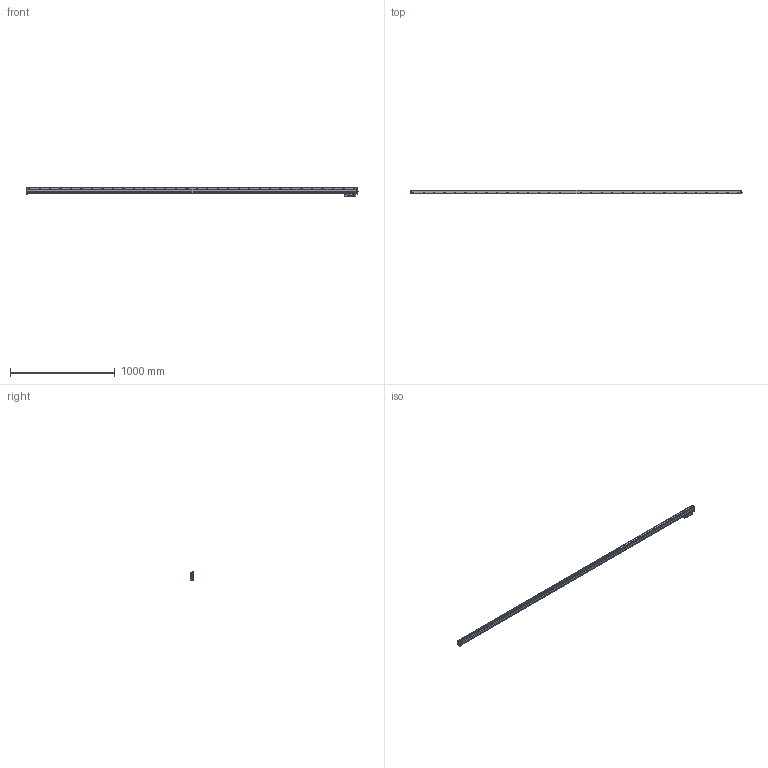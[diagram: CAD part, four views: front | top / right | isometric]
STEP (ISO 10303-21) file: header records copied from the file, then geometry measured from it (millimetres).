
FILE_DESCRIPTION(('Creo Elements/Direct Modeling STEP Export'),'2;1');
FILE_NAME('Regla G-3040-vs4.stp','2015-08-27T13:09:26',(''),(''),'Creo Elements/Direct Modeling STEP processor for AP214 (Solid Model)','Creo Elements/Direct Modeling 18.1G 27-Feb-2015 (C) Parametric Technology GmbH','');
FILE_SCHEMA(('AUTOMOTIVE_DESIGN { 1 0 10303 214 1 1 1 1 }'));
Length unit declared in the file: millimetre
Products named in the file (3): Cabeza; Regla_G-3040-VS4; Regla_serie_G-3040-VS4
Assembly tree (2 placements, depth 2):
  Regla_serie_G-3040-VS4
    Regla_G-3040-VS4
    Cabeza
Bounding box: 3168.91 x 38 x 85 mm (x, y, z)
Volume: 4778243 mm3; surface area: 951980.3 mm2
Topology: 2 solids, 6 shells, 3167 faces, 9701 edges, 6461 vertices
Faces by surface type: cylinder 1636, plane 1303, cone 170, torus 31, sphere 21, bspline 5, extrusion 1
Entity records: 115941 total; most frequent: CARTESIAN_POINT 29129, ORIENTED_EDGE 19394, DIRECTION 17180, EDGE_CURVE 9697, VERTEX_POINT 6461, AXIS2_PLACEMENT_3D 6068, VECTOR 5044, LINE 5043
